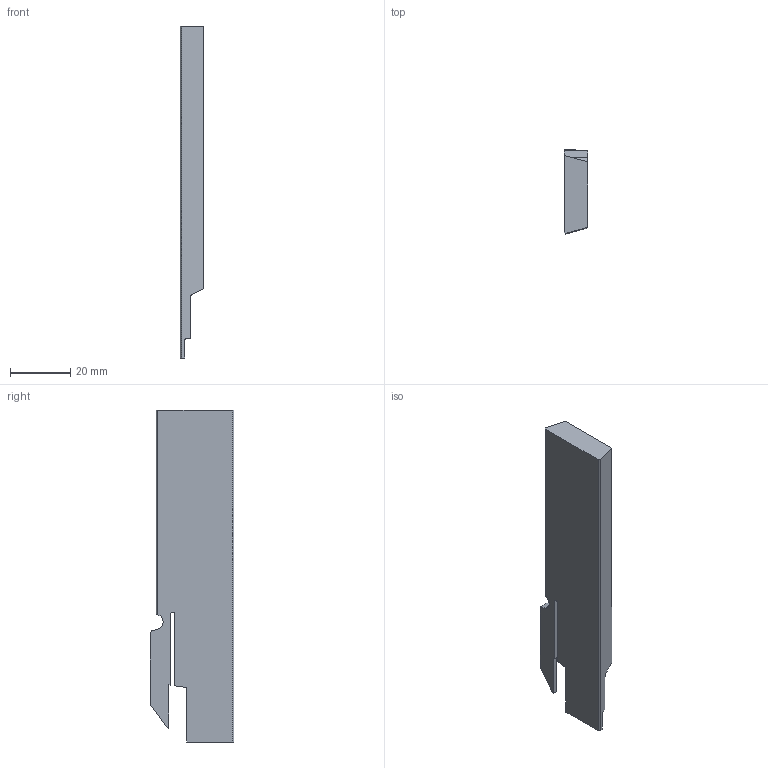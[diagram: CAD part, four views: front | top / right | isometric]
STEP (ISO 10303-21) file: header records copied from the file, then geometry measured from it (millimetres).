
FILE_DESCRIPTION(('CATIA V5 STEP','CAx-IF Rec.Pracs.--- Model Styling and Organization---1.2---2011-12-15'),'2;1');
FILE_NAME('I:\isr\design\admin8\users\weaam_s\2392081-D.stp','2014-11-02T05:22:51+00:00',('none'),('none'),'CATIA Version 5 Release 21 SP 5 (IN-10)','CATIA V5 STEP AP214','none');
FILE_SCHEMA(('AUTOMOTIVE_DESIGN { 1 0 10303 214 1 1 1 1 }'));
Length unit declared in the file: millimetre
Products named in the file (1): DGFHL 26B-2TR-D36
Bounding box: 7.94 x 27.79 x 110 mm (x, y, z)
Volume: 17212.5 mm3; surface area: 7256.6 mm2
Topology: 1 solids, 1 shells, 45 faces, 125 edges, 82 vertices
Faces by surface type: plane 30, cylinder 8, torus 4, cone 3
Entity records: 1461 total; most frequent: CARTESIAN_POINT 350, ORIENTED_EDGE 250, DIRECTION 183, EDGE_CURVE 125, VECTOR 89, LINE 89, VERTEX_POINT 82, AXIS2_PLACEMENT_3D 58
